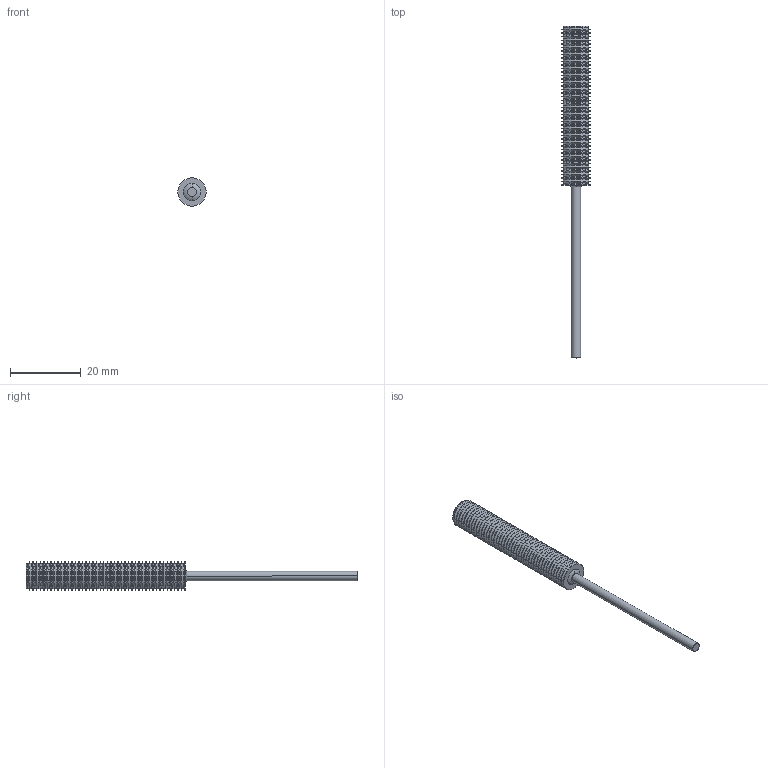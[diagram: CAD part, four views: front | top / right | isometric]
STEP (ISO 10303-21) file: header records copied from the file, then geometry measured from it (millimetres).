
FILE_DESCRIPTION(('STEP AP214'),'1');
FILE_NAME('Z:/3D-Daten INIS/tmp1.STEP','2021-10-15T08:22:54',(' '),(' '),'Spatial InterOp 3D',' ',' ');
FILE_SCHEMA(('automotive_design'));
Length unit declared in the file: millimetre
Products named in the file (1): 1
Bounding box: 8 x 94.1 x 8 mm (x, y, z)
Volume: 2202.3 mm3; surface area: 2189.6 mm2
Topology: 1 solids, 1 shells, 371 faces, 744 edges, 377 vertices
Faces by surface type: cylinder 182, cone 182, plane 4, torus 2, bspline 1
Entity records: 12399 total; most frequent: DIRECTION 1861, CARTESIAN_POINT 1588, ORIENTED_EDGE 1488, AXIS2_PLACEMENT_3D 748, EDGE_CURVE 744, VERTEX_POINT 377, CIRCLE 375, EDGE_LOOP 373
